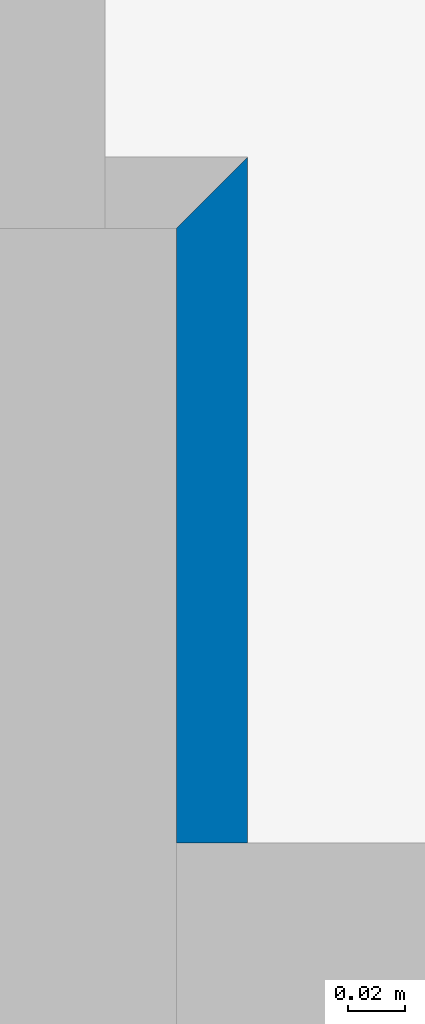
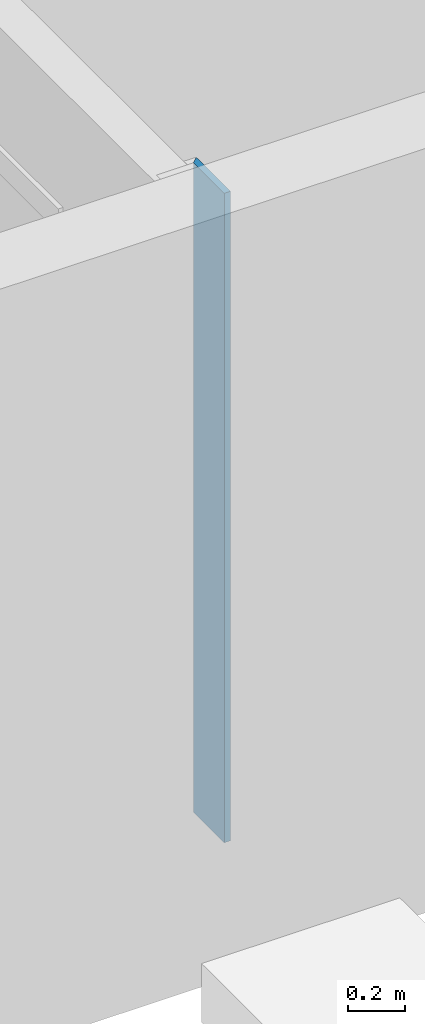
# One storey, part 2 of 24: 1 wall.
"""IFC2X3 building model written with IfcOpenShell, lengths in millimetres."""

from ifc_helpers import new_model, entity, si_unit, converted_unit, money_unit, direction, frame, origin_with_axes, place, context, subcontext, project, spatial, polyline, outline, extrude, material, layer, layer_set, layer_usage, type_object, element, save


model = new_model("IFC2X3")

# Units and contexts
model_context = context("Model", 3, precision=1e-05, world=origin_with_axes(), true_north=direction((0.0, 1.0)))
body_context = subcontext(model_context, "Body", "Model", "MODEL_VIEW")
ifc_project = project(units=[si_unit("LENGTHUNIT", "METRE", prefix="MILLI"), si_unit("AREAUNIT", "SQUARE_METRE"), si_unit("VOLUMEUNIT", "CUBIC_METRE"), converted_unit("PLANEANGLEUNIT", "DEGREE", entity("IfcPlaneAngleMeasure", 0.0174532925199), si_unit("PLANEANGLEUNIT", "RADIAN"), dimensions=[0, 0, 0, 0, 0, 0, 0]), si_unit("SOLIDANGLEUNIT", "STERADIAN"), money_unit("USD"), converted_unit("TIMEUNIT", "Year", entity("IfcTimeMeasure", 31556926.0), si_unit("TIMEUNIT", "SECOND"), dimensions=[0, 0, 0, 0, 0, 0, 0]), si_unit("MASSUNIT", "GRAM"), si_unit("THERMODYNAMICTEMPERATUREUNIT", "DEGREE_CELSIUS"), si_unit("LUMINOUSINTENSITYUNIT", "LUMEN")], contexts=[model_context])

# Site, building, storey
site_placement = place(None, origin_with_axes())
site = spatial("IfcSite", under=ifc_project, at=site_placement, Name="Grove Residential", CompositionType="ELEMENT")
building_placement = place(site_placement, origin_with_axes())
building = spatial("IfcBuilding", under=site, at=building_placement, Name="Building", CompositionType="ELEMENT")
storey_placement = place(building_placement, frame((0.0, 0.0, 3740.0), z_axis=(0.0, 0.0, 1.0), x_axis=(1.0, 0.0, 0.0)))
storey = spatial("IfcBuildingStorey", under=building, at=storey_placement, Name="First Floor", CompositionType="ELEMENT", Elevation=3740.0)

# Wall
ifc_material = material(Name="Gypsum Plasterboard")
ifc_layer_1 = layer(ifc_material, 12.5, ventilated="UNKNOWN")
ifc_layer_2 = layer(ifc_material, 12.5, ventilated="UNKNOWN")
ifc_layer_set = layer_set([ifc_layer_1, ifc_layer_2], Name="IF-001")
ifc_layer_usage = layer_usage(ifc_layer_set, "AXIS2", "NEGATIVE", 25.0)
wall_type = type_object("IfcWallType", Name="IF-001 25", PredefinedType="NOTDEFINED")
wall_placement = place(storey_placement, frame((-4735.0, 1864.99992309, -60.0), z_axis=(0.0, 0.0, 1.0), x_axis=(0.0, -1.0, 0.0)))
element("IfcWallStandardCase", 1, at=wall_placement, inside=storey, type_object=wall_type, material=ifc_layer_usage, Name="SW - 003", context=body_context, shape_type="SweptSolid", body=[
    extrude(outline(polyline([(0.0, 0.0), (215.0, 0.0), (215.0, 25.0), (-25.0, 25.0), (0.0, 0.0)])), origin_with_axes(), (0.0, 0.0, 1.0), 2770.0),
])

save(model, "model.ifc")
